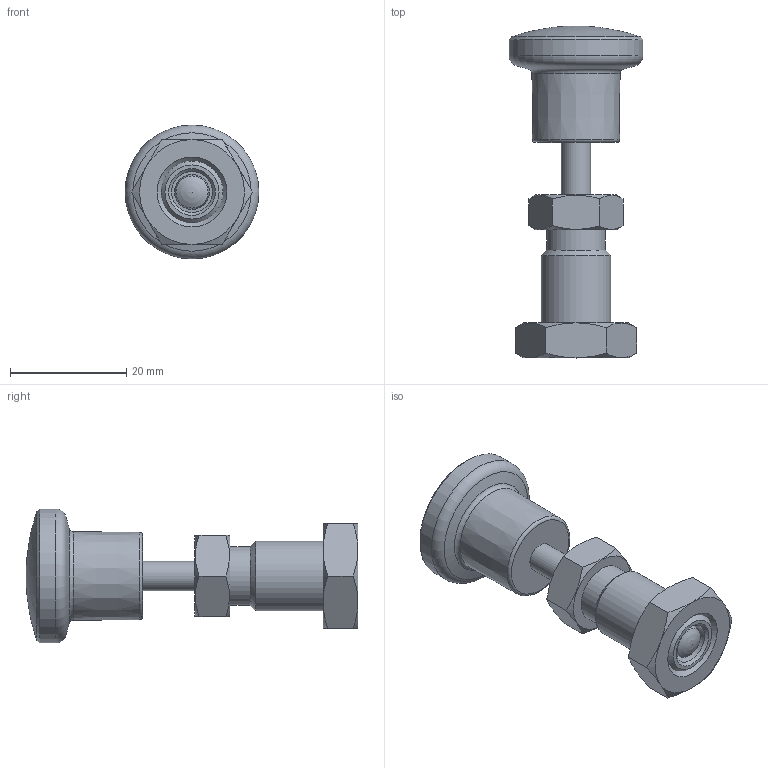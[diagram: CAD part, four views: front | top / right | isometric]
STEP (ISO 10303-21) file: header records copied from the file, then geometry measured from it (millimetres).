
FILE_DESCRIPTION( ( 'STEP AP203' ), '1' );
FILE_NAME( 'C:/Temp/Ganter_Step_05_03_2020/data/3_1/gn817/gn817_ni-rastbolzen_rot/Stainless Steel-Indexing plunger GN 817-6-9-BK-NI-RT (activated-0).stp', '2020-03-12T09:00:31', ( 'License CC BY-ND 4.0' ), ( 'CADENAS' ), ' ', 'PARTsolutions', ' ' );
FILE_SCHEMA( ( 'CONFIG_CONTROL_DESIGN' ) );
Length unit declared in the file: millimetre
Products named in the file (5): Stainless Steel-Indexing plunger GN 817-6-9-BK-NI-RT (activated-0); _Stainless steel-Indexing plunger GN 817-6-9-BK-NI-RT (activated-0)-d; _Stainless steel-Indexing plunger GN 817-6-9-B-NI-RT-2; _Stainless Steel Indexing plunger GN 817-6-9-B-NI-RT-1; _Stainless steel-Indexing plunger GN 817-6-9-BK-NI-RT (deactivated-0)-3
Assembly tree (4 placements, depth 2):
  Stainless Steel-Indexing plunger GN 817-6-9-BK-NI-RT (activated-0)
    _Stainless steel-Indexing plunger GN 817-6-9-BK-NI-RT (activated-0)-d
    _Stainless steel-Indexing plunger GN 817-6-9-B-NI-RT-2
    _Stainless Steel Indexing plunger GN 817-6-9-B-NI-RT-1
    _Stainless steel-Indexing plunger GN 817-6-9-BK-NI-RT (deactivated-0)-3
Bounding box: 23 x 57 x 23 mm (x, y, z)
Volume: 9334.1 mm3; surface area: 5301.3 mm2
Topology: 3 solids, 3 shells, 61 faces, 125 edges, 74 vertices
Faces by surface type: cone 24, plane 21, cylinder 9, torus 5, bspline 1, sphere 1
Full cylindrical faces by diameter (mm): 5 x2, 6 x1, 7 x2, 10.1 x1, 10.376 x1, 12 x1, 23 x1
Entity records: 1807 total; most frequent: CARTESIAN_POINT 520, DIRECTION 234, ORIENTED_EDGE 188, AXIS2_PLACEMENT_3D 111, EDGE_LOOP 96, EDGE_CURVE 94, FACE_OUTER_BOUND 75, VERTEX_POINT 72
